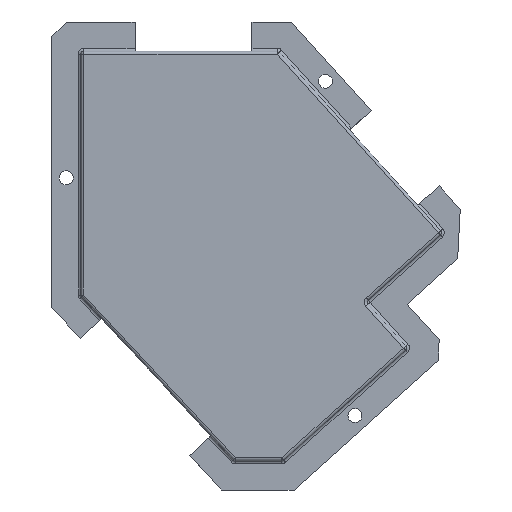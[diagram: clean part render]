
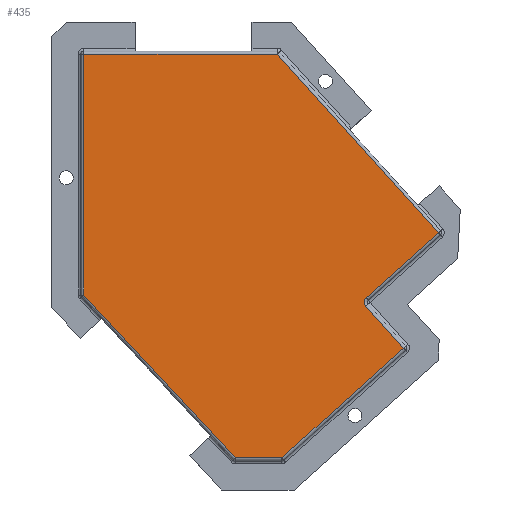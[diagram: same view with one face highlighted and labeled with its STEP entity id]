
A CAD part, left-side view. The second image highlights one B-rep face of the part: STEP entity #435.
In plain terms, the highlighted planar face has unit normal (-1, 0, 0).
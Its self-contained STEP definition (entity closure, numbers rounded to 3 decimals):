
#32 = DIRECTION ( 'NONE',  ( -1., 0., 0. ) ) ;
#57 = ORIENTED_EDGE ( 'NONE', *, *, #1571, .T. ) ;
#113 = CARTESIAN_POINT ( 'NONE',  ( 1948., -97.762, -65.534 ) ) ;
#245 = EDGE_LOOP ( 'NONE', ( #2913, #2080, #1278, #2800, #57, #2754, #412, #1219, #1692 ) ) ;
#339 = CARTESIAN_POINT ( 'NONE',  ( 1948., -99.248, -64.196 ) ) ;
#340 = VECTOR ( 'NONE', #3363, 1000. ) ;
#347 = CARTESIAN_POINT ( 'NONE',  ( 1948., -97.093, -64.791 ) ) ;
#405 = EDGE_CURVE ( 'NONE', #2687, #2820, #3537, .T. ) ;
#412 = ORIENTED_EDGE ( 'NONE', *, *, #2933, .T. ) ;
#431 = LINE ( 'NONE', #2281, #2934 ) ;
#435 = ADVANCED_FACE ( 'NONE', ( #2399 ), #2311, .T. ) ;
#450 = VECTOR ( 'NONE', #2818, 1000. ) ;
#472 = EDGE_CURVE ( 'NONE', #3682, #2820, #2095, .T. ) ;
#521 = CARTESIAN_POINT ( 'NONE',  ( 1948., -1., -62.139 ) ) ;
#525 = EDGE_CURVE ( 'NONE', #3682, #1224, #906, .T. ) ;
#587 = CARTESIAN_POINT ( 'NONE',  ( 1948., -122.669, -40.399 ) ) ;
#648 = VECTOR ( 'NONE', #1627, 1000. ) ;
#726 = VERTEX_POINT ( 'NONE', #1284 ) ;
#778 = CARTESIAN_POINT ( 'NONE',  ( 1948., -1., 20.952 ) ) ;
#796 = DIRECTION ( 'NONE',  ( 0., -0.681, -0.732 ) ) ;
#859 = VECTOR ( 'NONE', #999, 1000. ) ;
#906 = LINE ( 'NONE', #2353, #859 ) ;
#934 = DIRECTION ( 'NONE',  ( 0., 0., 1. ) ) ;
#971 = CARTESIAN_POINT ( 'NONE',  ( 1948., -52.989, -117.659 ) ) ;
#999 = DIRECTION ( 'NONE',  ( 0., -0.743, 0.669 ) ) ;
#1011 = LINE ( 'NONE', #2209, #2951 ) ;
#1148 = EDGE_CURVE ( 'NONE', #3114, #2687, #2728, .T. ) ;
#1219 = ORIENTED_EDGE ( 'NONE', *, *, #1148, .T. ) ;
#1224 = VERTEX_POINT ( 'NONE', #587 ) ;
#1255 = VECTOR ( 'NONE', #796, 1000. ) ;
#1269 = EDGE_CURVE ( 'NONE', #2020, #1546, #431, .T. ) ;
#1278 = ORIENTED_EDGE ( 'NONE', *, *, #2390, .T. ) ;
#1284 = CARTESIAN_POINT ( 'NONE',  ( 1948., -1., -61.746 ) ) ;
#1399 = CARTESIAN_POINT ( 'NONE',  ( 1948., -67.088, 21.283 ) ) ;
#1467 = DIRECTION ( 'NONE',  ( 0., 1., 0. ) ) ;
#1546 = VERTEX_POINT ( 'NONE', #778 ) ;
#1571 = EDGE_CURVE ( 'NONE', #1546, #726, #3241, .T. ) ;
#1627 = DIRECTION ( 'NONE',  ( 0., 0.669, 0.743 ) ) ;
#1661 = CARTESIAN_POINT ( 'NONE',  ( 1948., -68.921, -117.659 ) ) ;
#1692 = ORIENTED_EDGE ( 'NONE', *, *, #405, .T. ) ;
#1793 = AXIS2_PLACEMENT_3D ( 'NONE', #2623, #32, #2077 ) ;
#1804 = CARTESIAN_POINT ( 'NONE',  ( 1948., -110.76, -79.959 ) ) ;
#1895 = LINE ( 'NONE', #1399, #648 ) ;
#1902 = CARTESIAN_POINT ( 'NONE',  ( 1948., -53.286, -117.978 ) ) ;
#1905 = DIRECTION ( 'NONE',  ( 0., -1., 0. ) ) ;
#2020 = VERTEX_POINT ( 'NONE', #2898 ) ;
#2029 = DIRECTION ( 'NONE',  ( 0., 0.669, 0.743 ) ) ;
#2077 = DIRECTION ( 'NONE',  ( 0., 0., 1. ) ) ;
#2080 = ORIENTED_EDGE ( 'NONE', *, *, #525, .T. ) ;
#2095 = CIRCLE ( 'NONE', #3472, 2. ) ;
#2209 = CARTESIAN_POINT ( 'NONE',  ( 1948., -69.305, -117.659 ) ) ;
#2281 = CARTESIAN_POINT ( 'NONE',  ( 1948., 0., 20.952 ) ) ;
#2311 = PLANE ( 'NONE',  #1793 ) ;
#2333 = DIRECTION ( 'NONE',  ( -1., 0., 0. ) ) ;
#2348 = EDGE_CURVE ( 'NONE', #726, #2679, #2384, .T. ) ;
#2353 = CARTESIAN_POINT ( 'NONE',  ( 1948., -123.412, -39.73 ) ) ;
#2384 = LINE ( 'NONE', #1902, #1255 ) ;
#2390 = EDGE_CURVE ( 'NONE', #1224, #2020, #1895, .T. ) ;
#2399 = FACE_OUTER_BOUND ( 'NONE', #245, .T. ) ;
#2623 = CARTESIAN_POINT ( 'NONE',  ( 1948., 0., 0. ) ) ;
#2679 = VERTEX_POINT ( 'NONE', #971 ) ;
#2687 = VERTEX_POINT ( 'NONE', #1804 ) ;
#2728 = LINE ( 'NONE', #3107, #450 ) ;
#2754 = ORIENTED_EDGE ( 'NONE', *, *, #2348, .T. ) ;
#2800 = ORIENTED_EDGE ( 'NONE', *, *, #1269, .T. ) ;
#2818 = DIRECTION ( 'NONE',  ( 0., -0.743, 0.669 ) ) ;
#2820 = VERTEX_POINT ( 'NONE', #113 ) ;
#2898 = CARTESIAN_POINT ( 'NONE',  ( 1948., -67.386, 20.952 ) ) ;
#2913 = ORIENTED_EDGE ( 'NONE', *, *, #472, .F. ) ;
#2933 = EDGE_CURVE ( 'NONE', #2679, #3114, #1011, .T. ) ;
#2934 = VECTOR ( 'NONE', #1467, 1000. ) ;
#2951 = VECTOR ( 'NONE', #1905, 1000. ) ;
#3107 = CARTESIAN_POINT ( 'NONE',  ( 1948., -111.503, -79.289 ) ) ;
#3114 = VERTEX_POINT ( 'NONE', #1661 ) ;
#3241 = LINE ( 'NONE', #521, #340 ) ;
#3251 = VECTOR ( 'NONE', #2029, 1000. ) ;
#3363 = DIRECTION ( 'NONE',  ( 0., 0., -1. ) ) ;
#3404 = CARTESIAN_POINT ( 'NONE',  ( 1948., -97.909, -62.71 ) ) ;
#3472 = AXIS2_PLACEMENT_3D ( 'NONE', #339, #2333, #934 ) ;
#3537 = LINE ( 'NONE', #347, #3251 ) ;
#3682 = VERTEX_POINT ( 'NONE', #3404 ) ;
